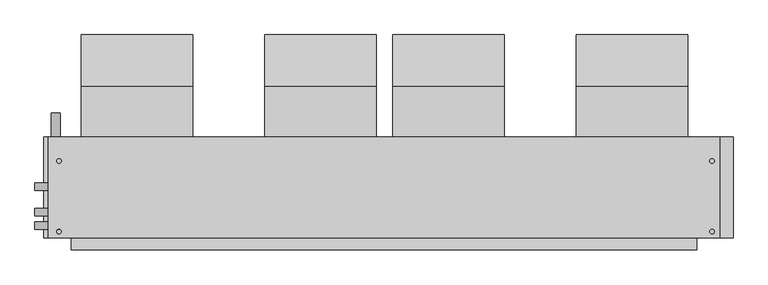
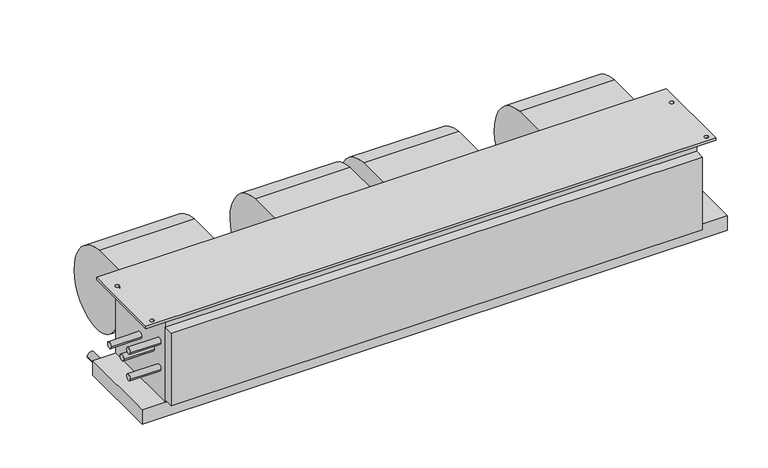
"""IFC4 building model written with IfcOpenShell, lengths in millimetres: proxy geometry, Concealed_Horizontal_Fan_Coil_Unit_-_42CAA_-_CARRIER_-_4-Pipe_LH_2022 : Size 10 - 277v/60Hz/1Ph - 4/1 Coil."""

from ifc_helpers import new_model, si_unit, point, frame, frame_2d, origin, place, context, project, spatial, polyline, circle_curve, trimmed, segment, composite_curve, outline, extrude, source, transform, mapped, element, save


def mechanical_equipment_fb2e328b(model_context):
    return source(origin(), model_context, "Body", "SweptSolid", [
        extrude(outline(composite_curve([segment(trimmed(circle_curve(frame_2d((-33.198831, -136.0299844)), 117.3559541), [point((-23.8125, -19.05))], [point((84.1375, -138.176))], False, "CARTESIAN"), True, "CONTINUOUS"), segment(trimmed(circle_curve(frame_2d((-11.5977337, -136.4250563)), 95.7512443), [point((84.1375, -138.176))], [point((-23.8125, -231.394))], False, "CARTESIAN"), True, "CONTINUOUS"), segment(trimmed(circle_curve(frame_2d((-11.6288131, -136.6666968)), 95.5076133), [point((-23.8125, -231.394))], [point((-107.1245, -138.176))], False, "CARTESIAN"), True, "CONTINUOUS"), segment(trimmed(circle_curve(frame_2d((-126.2059828, -138.4775816)), 19.0838659), [point((-107.1245, -138.176))], [point((-119.3963373, -120.65))], True, "CARTESIAN"), True, "CONTINUOUS"), segment(polyline([(-119.3963373, -120.65), (-131.7625, -120.65), (-131.7625, -19.05), (-23.8125, -19.05)]), True, "CONTINUOUS")], self_intersect=False)), frame((558.038, 0.0, 0.0), z_axis=(1.0, 0.0, 0.0), x_axis=(0.0, 1.0, 0.0)), (0.0, 0.0, 1.0), 235.712),
        extrude(outline(composite_curve([segment(trimmed(circle_curve(frame_2d((-33.198831, -136.0299844)), 117.3559541), [point((-23.8125, -19.05))], [point((84.1375, -138.176))], False, "CARTESIAN"), True, "CONTINUOUS"), segment(trimmed(circle_curve(frame_2d((-11.5977337, -136.4250563)), 95.7512443), [point((84.1375, -138.176))], [point((-23.8125, -231.394))], False, "CARTESIAN"), True, "CONTINUOUS"), segment(trimmed(circle_curve(frame_2d((-11.6288131, -136.6666968)), 95.5076133), [point((-23.8125, -231.394))], [point((-107.1245, -138.176))], False, "CARTESIAN"), True, "CONTINUOUS"), segment(trimmed(circle_curve(frame_2d((-126.2059828, -138.4775816)), 19.0838659), [point((-107.1245, -138.176))], [point((-119.3963373, -120.65))], True, "CARTESIAN"), True, "CONTINUOUS"), segment(polyline([(-119.3963373, -120.65), (-131.7625, -120.65), (-131.7625, -19.05), (-23.8125, -19.05)]), True, "CONTINUOUS")], self_intersect=False)), frame((-486.537, 0.0, 0.0), z_axis=(1.0, 0.0, 0.0), x_axis=(0.0, 1.0, 0.0)), (0.0, 0.0, 1.0), 235.712),
        extrude(outline(composite_curve([segment(trimmed(circle_curve(frame_2d((-33.198831, -136.0299844)), 117.3559541), [point((-23.8125, -19.05))], [point((84.1375, -138.176))], False, "CARTESIAN"), True, "CONTINUOUS"), segment(trimmed(circle_curve(frame_2d((-11.5977337, -136.4250563)), 95.7512443), [point((84.1375, -138.176))], [point((-23.8125, -231.394))], False, "CARTESIAN"), True, "CONTINUOUS"), segment(trimmed(circle_curve(frame_2d((-11.6288131, -136.6666968)), 95.5076133), [point((-23.8125, -231.394))], [point((-107.1245, -138.176))], False, "CARTESIAN"), True, "CONTINUOUS"), segment(trimmed(circle_curve(frame_2d((-126.2059828, -138.4775816)), 19.0838659), [point((-107.1245, -138.176))], [point((-119.3963373, -120.65))], True, "CARTESIAN"), True, "CONTINUOUS"), segment(polyline([(-119.3963373, -120.65), (-131.7625, -120.65), (-131.7625, -19.05), (-23.8125, -19.05)]), True, "CONTINUOUS")], self_intersect=False)), frame((-99.187, 0.0, 0.0), z_axis=(1.0, 0.0, 0.0), x_axis=(0.0, 1.0, 0.0)), (0.0, 0.0, 1.0), 235.712),
        extrude(outline(composite_curve([segment(trimmed(circle_curve(frame_2d((-33.198831, -136.0299844)), 117.3559541), [point((-23.8125, -19.05))], [point((84.1375, -138.176))], False, "CARTESIAN"), True, "CONTINUOUS"), segment(trimmed(circle_curve(frame_2d((-11.5977337, -136.4250563)), 95.7512443), [point((84.1375, -138.176))], [point((-23.8125, -231.394))], False, "CARTESIAN"), True, "CONTINUOUS"), segment(trimmed(circle_curve(frame_2d((-11.6288131, -136.6666968)), 95.5076133), [point((-23.8125, -231.394))], [point((-107.1245, -138.176))], False, "CARTESIAN"), True, "CONTINUOUS"), segment(trimmed(circle_curve(frame_2d((-126.2059828, -138.4775816)), 19.0838659), [point((-107.1245, -138.176))], [point((-119.3963373, -120.65))], True, "CARTESIAN"), True, "CONTINUOUS"), segment(polyline([(-119.3963373, -120.65), (-131.7625, -120.65), (-131.7625, -19.05), (-23.8125, -19.05)]), True, "CONTINUOUS")], self_intersect=False)), frame((170.688, 0.0, 0.0), z_axis=(1.0, 0.0, 0.0), x_axis=(0.0, 1.0, 0.0)), (0.0, 0.0, 1.0), 235.712),
        extrude(outline(polyline([(860.425, -131.7625), (860.425, -344.4875), (-555.625, -344.4875), (-555.625, -131.7625), (860.425, -131.7625)]), holes=[composite_curve([segment(trimmed(circle_curve(frame_2d((-533.4, -182.5625)), 4.7625), [point((-538.1625, -182.5625))], [point((-528.6375, -182.5625))], True, "CARTESIAN"), True, "CONTINUOUS"), segment(trimmed(circle_curve(frame_2d((-533.4, -182.5625)), 4.7625), [point((-528.6375, -182.5625))], [point((-538.1625, -182.5625))], True, "CARTESIAN"), True, "CONTINUOUS")], self_intersect=False), composite_curve([segment(trimmed(circle_curve(frame_2d((-533.4, -331.7875)), 4.7625), [point((-538.1625, -331.7875))], [point((-528.6375, -331.7875))], True, "CARTESIAN"), True, "CONTINUOUS"), segment(trimmed(circle_curve(frame_2d((-533.4, -331.7875)), 4.7625), [point((-528.6375, -331.7875))], [point((-538.1625, -331.7875))], True, "CARTESIAN"), True, "CONTINUOUS")], self_intersect=False), composite_curve([segment(trimmed(circle_curve(frame_2d((844.55, -182.5625)), 4.7625), [point((839.7875, -182.5625))], [point((849.3125, -182.5625))], True, "CARTESIAN"), True, "CONTINUOUS"), segment(trimmed(circle_curve(frame_2d((844.55, -182.5625)), 4.7625), [point((849.3125, -182.5625))], [point((839.7875, -182.5625))], True, "CARTESIAN"), True, "CONTINUOUS")], self_intersect=False), composite_curve([segment(trimmed(circle_curve(frame_2d((844.55, -331.7875)), 4.7625), [point((839.7875, -331.7875))], [point((849.3125, -331.7875))], True, "CARTESIAN"), True, "CONTINUOUS"), segment(trimmed(circle_curve(frame_2d((844.55, -331.7875)), 4.7625), [point((849.3125, -331.7875))], [point((839.7875, -331.7875))], True, "CARTESIAN"), True, "CONTINUOUS")], self_intersect=False)]), frame((0.0, 0.0, -6.35), z_axis=(0.0, 0.0, 1.0), x_axis=(1.0, 0.0, 0.0)), (0.0, 0.0, 1.0), 6.35),
        extrude(outline(composite_curve([segment(trimmed(circle_curve(frame_2d((-241.3, -539.75)), 9.525), [point((-241.3, -549.275))], [point((-241.3, -530.225))], False, "CARTESIAN"), True, "CONTINUOUS"), segment(trimmed(circle_curve(frame_2d((-241.3, -539.75)), 9.525), [point((-241.3, -530.225))], [point((-241.3, -549.275))], False, "CARTESIAN"), True, "CONTINUOUS")], self_intersect=False)), frame((0.0, -131.7625, 0.0), z_axis=(0.0, 1.0, 0.0), x_axis=(0.0, 0.0, 1.0)), (0.0, 0.0, 1.0), 50.8),
        extrude(outline(polyline([(812.8, -369.8875), (-508.0, -369.8875), (-508.0, -344.4875), (812.8, -344.4875), (812.8, -369.8875)])), frame((0.0, 0.0, -209.55), z_axis=(0.0, 0.0, 1.0), x_axis=(1.0, 0.0, 0.0)), (0.0, 0.0, 1.0), 190.5),
        extrude(outline(polyline([(889.0, -131.7625), (889.0, -344.4875), (-565.15, -344.4875), (-565.15, -131.7625), (889.0, -131.7625)])), frame((0.0, 0.0, -254.0), z_axis=(0.0, 0.0, 1.0), x_axis=(1.0, 0.0, 0.0)), (0.0, 0.0, 1.0), 38.1),
        extrude(outline(composite_curve([segment(trimmed(circle_curve(frame_2d((-236.5375, -104.775)), 7.9375), [point((-228.6, -104.775))], [point((-244.475, -104.775))], False, "CARTESIAN"), True, "CONTINUOUS"), segment(trimmed(circle_curve(frame_2d((-236.5375, -104.775)), 7.9375), [point((-244.475, -104.775))], [point((-228.6, -104.775))], False, "CARTESIAN"), True, "CONTINUOUS")], self_intersect=False)), frame((-584.2, 0.0, 0.0), z_axis=(1.0, 0.0, 0.0), x_axis=(0.0, 1.0, 0.0)), (0.0, 0.0, 1.0), 76.2),
        extrude(outline(composite_curve([segment(trimmed(circle_curve(frame_2d((-290.5125, -104.775)), 7.9375), [point((-282.575, -104.775))], [point((-298.45, -104.775))], False, "CARTESIAN"), True, "CONTINUOUS"), segment(trimmed(circle_curve(frame_2d((-290.5125, -104.775)), 7.9375), [point((-298.45, -104.775))], [point((-282.575, -104.775))], False, "CARTESIAN"), True, "CONTINUOUS")], self_intersect=False)), frame((-584.2, 0.0, 0.0), z_axis=(1.0, 0.0, 0.0), x_axis=(0.0, 1.0, 0.0)), (0.0, 0.0, 1.0), 76.2),
        extrude(outline(composite_curve([segment(trimmed(circle_curve(frame_2d((-319.0875, -69.85)), 7.9375), [point((-311.15, -69.85))], [point((-327.025, -69.85))], False, "CARTESIAN"), True, "CONTINUOUS"), segment(trimmed(circle_curve(frame_2d((-319.0875, -69.85)), 7.9375), [point((-327.025, -69.85))], [point((-311.15, -69.85))], False, "CARTESIAN"), True, "CONTINUOUS")], self_intersect=False)), frame((-584.2, 0.0, 0.0), z_axis=(1.0, 0.0, 0.0), x_axis=(0.0, 1.0, 0.0)), (0.0, 0.0, 1.0), 76.2),
        extrude(outline(composite_curve([segment(trimmed(circle_curve(frame_2d((-319.0875, -139.7)), 7.9375), [point((-311.15, -139.7))], [point((-327.025, -139.7))], False, "CARTESIAN"), True, "CONTINUOUS"), segment(trimmed(circle_curve(frame_2d((-319.0875, -139.7)), 7.9375), [point((-327.025, -139.7))], [point((-311.15, -139.7))], False, "CARTESIAN"), True, "CONTINUOUS")], self_intersect=False)), frame((-584.2, 0.0, 0.0), z_axis=(1.0, 0.0, 0.0), x_axis=(0.0, 1.0, 0.0)), (0.0, 0.0, 1.0), 76.2),
        extrude(outline(polyline([(812.8, -344.4875), (-508.0, -344.4875), (-508.0, -131.7625), (812.8, -131.7625), (812.8, -344.4875)])), frame((0.0, 0.0, -215.9), z_axis=(0.0, 0.0, 1.0), x_axis=(1.0, 0.0, 0.0)), (0.0, 0.0, 1.0), 209.55),
    ])


if __name__ == "__main__":
    model = new_model("IFC4")
    model_context = context("Model", 3, world=origin())
    ifc_project = project(units=[si_unit("LENGTHUNIT", "METRE", prefix="MILLI")], contexts=[model_context])
    site = spatial("IfcSite", under=ifc_project)
    building = spatial("IfcBuilding", under=site)
    placement = place(None, origin())
    mechanical_equipment_shape = mechanical_equipment_fb2e328b(model_context)
    element("IfcBuildingElementProxy", 1, Name="Concealed_Horizontal_Fan_Coil_Unit_-_42CAA_-_CARRIER_-_4-Pipe_LH_2022 : Size 10 - 277v/60Hz/1Ph - 4/1 Coil", ObjectType="Concealed_Horizontal_Fan_Coil_Unit_-_42CAA_-_CARRIER_-_4-Pipe_LH_2022 : Size 10 - 277v/60Hz/1Ph - 4/1 Coil", at=placement, inside=building, context=model_context, shape_type="MappedRepresentation", body=[
        mapped(mechanical_equipment_shape, transform((0.0, 0.0, 0.0), x_axis=(1.0, 0.0, 0.0), y_axis=(0.0, 1.0, 0.0), z_axis=(0.0, 0.0, 1.0))),
    ])
    save(model, "model.ifc")
